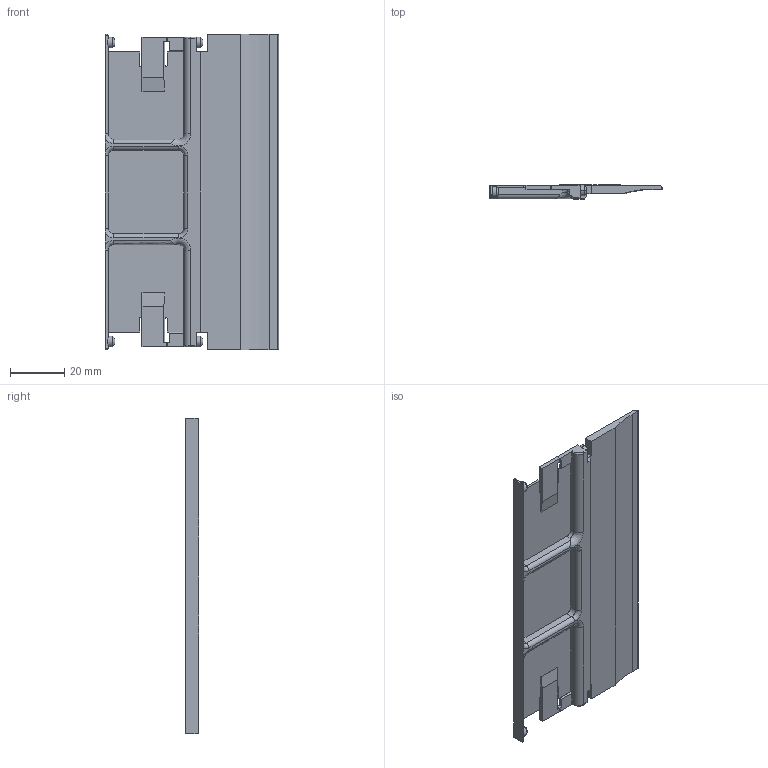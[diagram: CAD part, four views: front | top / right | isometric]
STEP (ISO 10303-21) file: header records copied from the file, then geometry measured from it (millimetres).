
FILE_DESCRIPTION((''),'2;1');
FILE_NAME('C:\Uebbing\PARAMETERKETTEN\KOLIBRI\Kol_65_135_5\Kol_65_135_5 Klappdeckel gesägt 01.stp','2011-11-02T15:12:47',('Uebbing'),(''),'Autodesk Inventor 10','Autodesk Inventor 10','');
FILE_SCHEMA(('AUTOMOTIVE_DESIGN { 1 0 10303 214 1 1 1 1 }'));
Length unit declared in the file: millimetre
Products named in the file (1): Kol_65_135_5 Klappdeckel gesägt 01
Bounding box: 64 x 5.1 x 116.6 mm (x, y, z)
Volume: 15720.8 mm3; surface area: 16864.1 mm2
Topology: 1 solids, 1 shells, 175 faces, 475 edges, 304 vertices
Faces by surface type: bspline 79, plane 62, cylinder 25, torus 6, cone 3
Full cylindrical faces by diameter (mm): 4 x1
Entity records: 6059 total; most frequent: CARTESIAN_POINT 1880, ORIENTED_EDGE 938, DIRECTION 753, EDGE_CURVE 469, VECTOR 339, LINE 339, VERTEX_POINT 302, AXIS2_PLACEMENT_3D 207
